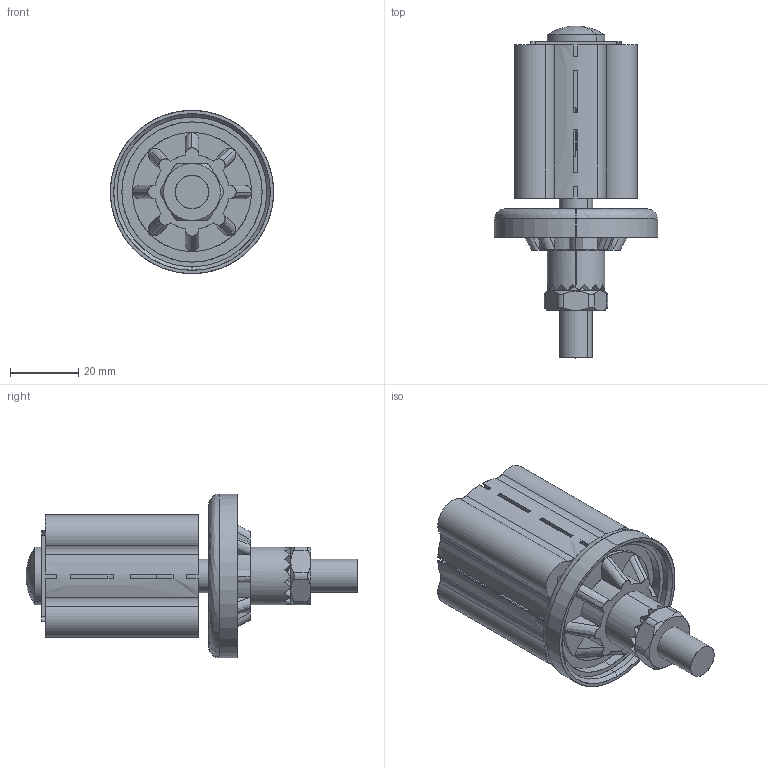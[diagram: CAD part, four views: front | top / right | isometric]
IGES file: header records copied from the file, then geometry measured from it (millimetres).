
Start section: SolidWorks IGES file using analytic representation for surfaces
Global section: file name: S:\Tyokansio\VL\300424_IGES.IGS; native system: SolidWorks 2011; preprocessor: SolidWorks 2011; author: VilleLa; date: 110620.130710; units: millimetre
Bounding box: 48 x 97.6 x 48 mm (x, y, z)
Surface area: 32463 mm2 (no closed solid volume)
Topology: 0 solids, 0 shells, 267 faces, 3200 edges, 3200 vertices
Faces by surface type: bspline 176, revolution 91
